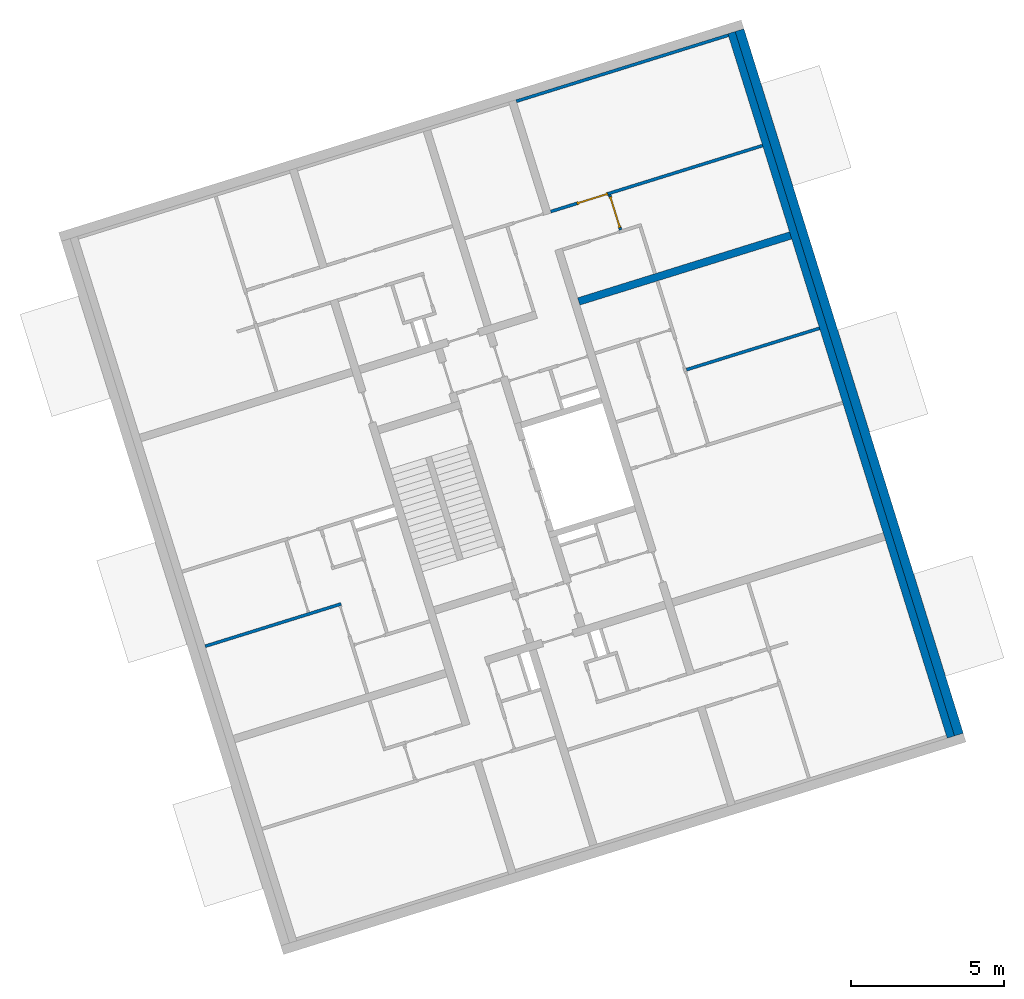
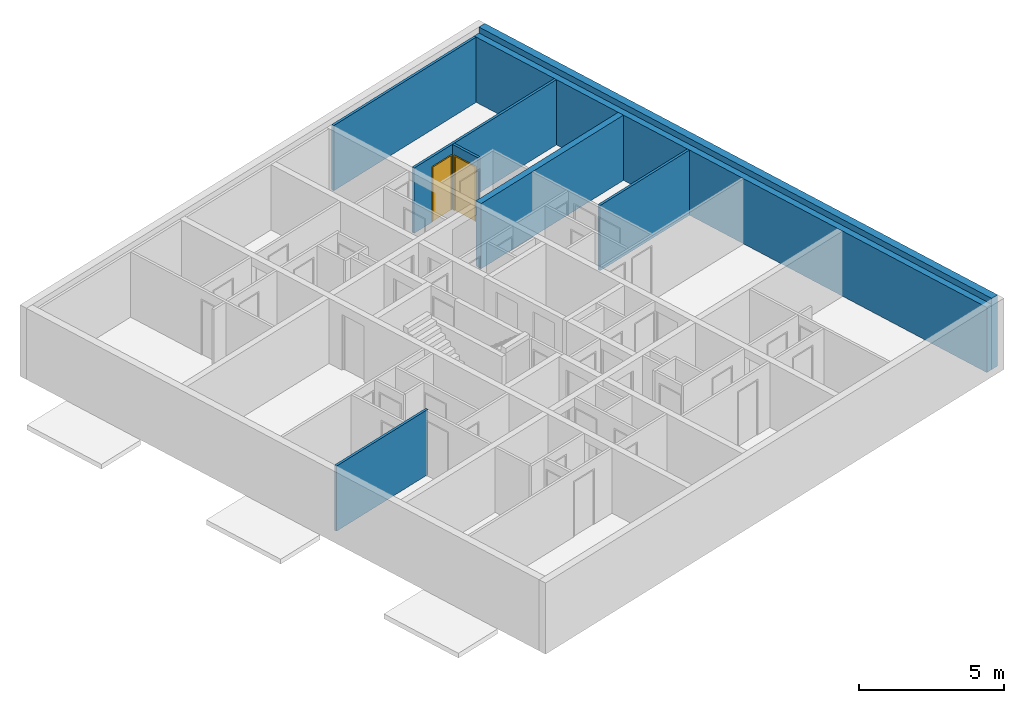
# One storey, part 7 of 9: 8 walls, 2 doors, 6 openings.
"""IFC4 building model written with IfcOpenShell, lengths in metres."""

from ifc_helpers import new_model, entity, si_unit, converted_unit, direction, frame, origin, place, context, subcontext, project, spatial, indexed_curve, outline, extrude, polygons, source, transform, mapped, material, constituent, constituent_set, type_object, type_shapes, element, fill, save


model = new_model("IFC4")

# Units and contexts
model_context = context("Model", 3, precision=1e-05, world=origin(), true_north=direction((6.12323399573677e-17, 1.0)))
body_context = subcontext(model_context, "Body", "Model", "MODEL_VIEW")
ifc_project = project(units=[si_unit("LENGTHUNIT", "METRE"), si_unit("AREAUNIT", "SQUARE_METRE"), converted_unit("PLANEANGLEUNIT", "DEGREE", entity("IfcPlaneAngleMeasure", 0.0174532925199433), si_unit("PLANEANGLEUNIT", "RADIAN"), dimensions=[0, 0, 0, 0, 0, 0, 0]), si_unit("VOLUMEUNIT", "CUBIC_METRE")], contexts=[model_context])

# Site, building, storey
site_placement = place(None, frame((13.1347999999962, 11.9886000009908, 0.0), z_axis=(0.0, 0.0, 1.0), x_axis=(0.954770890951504, 0.297342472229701, 0.0)))
site = spatial("IfcSite", under=ifc_project, at=site_placement, Name="Schiehaven", CompositionType="ELEMENT")
building_placement = place(site_placement, origin())
building = spatial("IfcBuilding", under=site, at=building_placement, Name="VORM huis", CompositionType="ELEMENT")
storey_placement = place(building_placement, frame((0.0, 0.0, 18.9)))
storey = spatial("IfcBuildingStorey", under=building, at=storey_placement, Name="06 zesde verdieping", CompositionType="ELEMENT", Elevation=18.9)

# Walls
ifc_material_1 = material(Name="beton_gewapend_ihw", Category="Miscellaneous")
wall_type_1 = type_object("IfcWallType", Name="Basic Wall:28_WA_skelet_wand 250mm_gen", PredefinedType="STANDARD")
wall_1_placement = place(storey_placement, frame((80.0, 5.0, 0.0), z_axis=(0.0, 0.0, 1.0), x_axis=(0.0, 1.0, 0.0)))
element("IfcWall", 1, at=wall_1_placement, inside=storey, type_object=wall_type_1, material=ifc_material_1, Name="Constructieve wand", ObjectType="Wand", PredefinedType="NOTDEFINED", context=body_context, shape_type="SweptSolid", body=[
    extrude(outline(indexed_curve([(24.1, 0.125), (2.12737606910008e-16, 0.125000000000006), (-2.12737606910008e-16, -0.125000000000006), (24.1, -0.125000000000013), (24.1, 0.125)], self_intersect=False)), origin(), (0.0, 0.0, 1.0), 2.75),
])
ifc_material_2 = material(Name="ntb_ntb_ntb", Category="Miscellaneous")
wall_type_2 = type_object("IfcWallType", Name="Basic Wall:21_WA_gevel_binnenspouwwand 100mm_gen", PredefinedType="STANDARD")
wall_2_placement = place(storey_placement, frame((79.8750000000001, 29.0499999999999, 0.0), z_axis=(0.0, 0.0, 1.0), x_axis=(-1.0, 0.0, 0.0)))
element("IfcWall", 2, at=wall_2_placement, inside=storey, type_object=wall_type_2, material=ifc_material_2, Name="Binnenspouwblad", ObjectType="Wand", PredefinedType="NOTDEFINED", context=body_context, shape_type="SweptSolid", body=[
    extrude(outline(indexed_curve([(7.24999999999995, 0.0499999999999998), (-1.70916305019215e-17, 0.0500000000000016), (1.70916305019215e-17, -0.0500000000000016), (7.24999999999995, -0.0500000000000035), (7.24999999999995, 0.0499999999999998)], self_intersect=False)), origin(), (0.0, 0.0, 1.0), 2.75),
])
wall_type_3 = type_object("IfcWallType", Name="Basic Wall: 300mm_gen", PredefinedType="STANDARD")
wall_3_placement = place(storey_placement, frame((80.275, 5.0, 0.0), z_axis=(0.0, 0.0, 1.0), x_axis=(0.0, 1.0, 0.0)))
element("IfcWall", 3, at=wall_3_placement, inside=storey, type_object=wall_type_3, material=ifc_material_2, Name="Gevelwand", ObjectType="Wand", PredefinedType="NOTDEFINED", context=body_context, shape_type="SweptSolid", body=[
    extrude(outline(indexed_curve([(24.1, 0.150000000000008), (-3.80640300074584e-16, 0.150000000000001), (-7.02226829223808e-16, -0.150000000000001), (24.1, -0.149999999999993), (24.1, 0.150000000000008)], self_intersect=False)), origin(), (0.0, 0.0, 1.0), 3.0),
])
wall_type_4 = type_object("IfcWallType", Name="Basic Wall:22_WA_afbouw_binnenwand 250mm_gen", PredefinedType="STANDARD")
wall_4_placement = place(storey_placement, frame((72.6250000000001, 22.1999999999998, 0.0)))
element("IfcWall", 4, at=wall_4_placement, inside=storey, type_object=wall_type_4, material=ifc_material_2, Name="Binnenwand", ObjectType="Wand", PredefinedType="NOTDEFINED", context=body_context, shape_type="SweptSolid", body=[
    extrude(outline(indexed_curve([(7.24999999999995, 0.125000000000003), (4.81048401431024e-17, 0.125000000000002), (-4.81048401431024e-17, -0.125000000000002), (7.24999999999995, -0.125), (7.24999999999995, 0.125000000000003)], self_intersect=False)), origin(), (0.0, 0.0, 1.0), 2.75),
])

# Wall, openings
wall_type_5 = type_object("IfcWallType", Name="Basic Wall:22_WA_afbouw_binnenwand 100mm_gen", PredefinedType="STANDARD")
wall_5_placement = place(storey_placement, frame((62.275, 15.0749999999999, 0.0), z_axis=(0.0, 0.0, 1.0), x_axis=(-1.0, 0.0, 0.0)))
wall_5 = element("IfcWall", 5, at=wall_5_placement, inside=storey, type_object=wall_type_5, material=ifc_material_2, Name="Binnenwand", ObjectType="Wand", PredefinedType="NOTDEFINED", context=body_context, shape_type="Tessellation", body=[
    polygons([(-2.2517677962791e-15, -0.0499999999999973, 2.16573425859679e-15), (4.65000000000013, -0.0500000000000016, 2.16573425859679e-15), (4.65000000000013, -0.0500000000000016, 2.75), (1.15, -0.0500000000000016, 2.75), (1.04999999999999, -0.0500000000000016, 2.75), (-2.2517677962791e-15, -0.0499999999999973, 2.75), (-2.17960445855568e-15, 0.0499999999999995, 2.16573425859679e-15), (-2.17960445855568e-15, 0.0499999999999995, 2.34999999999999), (-2.17960445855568e-15, 0.0499999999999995, 2.75), (0.100000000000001, 0.0499999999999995, 2.75), (4.65000000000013, 0.0499999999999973, 2.75), (4.65000000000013, 0.0499999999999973, 2.16573425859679e-15)], [[[1, 2, 3, 4, 5, 6]], [[7, 8, 9, 10, 11, 12]], [[2, 1, 7, 12]], [[3, 2, 12, 11]], [[6, 5, 4, 3, 11, 10, 9]], [[1, 6, 9, 8, 7]]], closed=True),
])
opening_1_placement = place(wall_5_placement, origin())
element("IfcOpeningElement", 6, at=opening_1_placement, cuts=wall_5, Name="Binnendeur", PredefinedType="OPENING", context=body_context, shape_type="SweptSolid", body=[
    extrude(outline(indexed_curve([(-0.0499999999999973, -1.17499999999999), (0.050000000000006, -1.17499999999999), (0.050000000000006, 1.17499999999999), (-0.0499999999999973, 1.17499999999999), (-0.0499999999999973, -1.17499999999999)], self_intersect=False)), frame((0.0500000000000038, 0.0500000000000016, 1.17499999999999), z_axis=(0.0, 1.0, 0.0), x_axis=(-1.0, 0.0, 0.0)), (0.0, 0.0, 1.0), 1.05),
])
opening_2_placement = place(wall_5_placement, origin())
element("IfcOpeningElement", 7, at=opening_2_placement, cuts=wall_5, Name="Binnendeur", PredefinedType="OPENING", context=body_context, shape_type="SweptSolid", body=[
    extrude(outline(indexed_curve([(-0.050000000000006, -1.17499999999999), (0.0499999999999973, -1.17499999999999), (0.0499999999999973, 1.17499999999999), (-0.050000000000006, 1.17499999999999), (-0.050000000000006, -1.17499999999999)], self_intersect=False)), frame((1.09999999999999, -1.1, 1.17499999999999), z_axis=(0.0, 1.0, 0.0), x_axis=(-1.0, 0.0, 0.0)), (0.0, 0.0, 1.0), 1.05),
])

# Wall, opening, door
wall_6_placement = place(storey_placement, frame((79.8749999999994, 25.2750000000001, 0.0), z_axis=(0.0, 0.0, 1.0), x_axis=(-1.0, 0.0, 0.0)))
wall_6 = element("IfcWall", 8, at=wall_6_placement, inside=storey, type_object=wall_type_5, material=ifc_material_2, Name="Binnenwand", ObjectType="Wand", PredefinedType="NOTDEFINED", context=body_context, shape_type="Tessellation", body=[
    polygons([(6.35000000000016, -0.0499999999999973, 2.34999999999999), (6.35000000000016, -0.0499999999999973, 2.16573425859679e-15), (7.25000000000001, -0.0499999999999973, 2.16573425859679e-15), (7.25000000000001, -0.0499999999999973, 2.75), (-3.45114969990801e-15, -0.0499999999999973, 2.75), (-3.45114969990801e-15, -0.0499999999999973, 2.16573425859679e-15), (5.30000000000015, -0.049999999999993, 2.16573425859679e-15), (5.30000000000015, -0.049999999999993, 2.34999999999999), (7.25000000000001, 0.0500000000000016, 2.16573425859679e-15), (6.35000000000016, 0.0500000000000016, 2.16573425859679e-15), (6.35000000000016, 0.0500000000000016, 2.34999999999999), (5.30000000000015, 0.050000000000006, 2.34999999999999), (5.30000000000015, 0.050000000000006, 2.16573425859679e-15), (5.20000000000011, 0.050000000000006, 2.16573425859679e-15), (-3.57435048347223e-15, 0.0500000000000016, 2.16573425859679e-15), (-3.57435048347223e-15, 0.0500000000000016, 2.75), (5.20000000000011, 0.050000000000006, 2.75), (5.30000000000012, 0.050000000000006, 2.75), (7.25000000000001, 0.0500000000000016, 2.75)], [[[1, 2, 3, 4, 5, 6, 7, 8]], [[9, 10, 11, 12, 13, 14, 15, 16, 17, 18, 19]], [[7, 6, 15, 14, 13]], [[4, 3, 9, 19]], [[5, 4, 19, 18, 17, 16]], [[6, 5, 16, 15]], [[13, 12, 8, 7]], [[11, 10, 2, 1]], [[12, 11, 1, 8]], [[3, 2, 10, 9]]], closed=True),
])
opening_3_placement = place(wall_6_placement, frame((5.30000000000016, -0.0500000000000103, 0.0)))
opening_3 = element("IfcOpeningElement", 9, at=opening_3_placement, cuts=wall_6, Name="Binnendeur", PredefinedType="OPENING", context=body_context, shape_type="SweptSolid", body=[
    extrude(outline(indexed_curve([(2.34999999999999, 0.0), (2.34999999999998, 1.05), (0.0, 1.05), (2.16573425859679e-15, 0.0), (2.34999999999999, 0.0)], self_intersect=False)), frame((0.0, 0.0, 0.0), z_axis=(0.0, 1.0, 0.0), x_axis=(0.0, 0.0, 1.0)), (0.0, 0.0, 1.0), 0.1),
])
ifc_material_3 = material(Name="PD_a_binnenwandopeningen", Category="Miscellaneous")
ifc_constituent_1 = constituent(ifc_material_3, Name="PD_a_binnenwandopeningen", Category="Miscellaneous")
ifc_material_4 = material(Name="metaal_aluminium_ntb", Category="Miscellaneous")
ifc_constituent_2 = constituent(ifc_material_4, Name="metaal_aluminium_ntb", Category="Miscellaneous")
ifc_constituent_set_1 = constituent_set(constituents=[ifc_constituent_1, ifc_constituent_2])
ifc_constituent_3 = constituent(ifc_material_3, Name="PD_a_binnenwandopeningen", Category="Miscellaneous")
ifc_constituent_4 = constituent(ifc_material_4, Name="Panel", Category="Miscellaneous")
ifc_constituent_set_2 = constituent_set(constituents=[ifc_constituent_3, ifc_constituent_4])
door_type_1 = type_object("IfcDoorType", Name="32_DO_binnendeur enkel:binnendeur", OperationType="REVOLVING", PredefinedType="DOOR", material=ifc_constituent_set_2)
shared_shape_1 = source(origin(), body_context, "Body", "SweptSolid", [
    extrude(outline(indexed_curve([(0.475, -1.16249999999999), (0.525, -1.16249999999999), (0.525, 1.18749999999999), (-0.525, 1.18749999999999), (-0.525, -1.16249999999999), (-0.475, -1.16249999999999), (-0.475, 1.13749999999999), (0.475, 1.13749999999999), (0.475, -1.16249999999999)], self_intersect=False)), frame((0.525000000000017, 0.100000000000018, 1.16249999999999), z_axis=(0.0, -1.0, 0.0), x_axis=(1.0, 0.0, 0.0)), (0.0, 0.0, 1.0), 0.1),
    extrude(outline(indexed_curve([(-0.475, -0.025), (0.475, -0.025), (0.475, 0.025), (-0.475, 0.025), (-0.475, -0.025)], self_intersect=False)), frame((0.525000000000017, 0.0499999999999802, 0.0)), (0.0, 0.0, 1.0), 2.29999999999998),
])
type_shapes(door_type_1, [shared_shape_1])
door_1_placement = place(opening_3_placement, origin())
door_1 = element("IfcDoor", 10, at=door_1_placement, inside=storey, type_object=door_type_1, material=ifc_constituent_set_1, Name="Binnendeur", ObjectType="Deur", OperationType="REVOLVING", OverallHeight=2.34999999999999, OverallWidth=1.05, PredefinedType="DOOR", context=body_context, shape_type="MappedRepresentation", body=[
    mapped(shared_shape_1, transform((0.0, 0.0, 0.0), scale=1.0)),
])
fill(opening_3, door_1)

# Wall, openings, door
wall_7_placement = place(storey_placement, frame((74.6249999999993, 24.0250000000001, 0.0), z_axis=(0.0, 0.0, 1.0), x_axis=(0.0, 1.0, 0.0)))
wall_7 = element("IfcWall", 11, at=wall_7_placement, inside=storey, type_object=wall_type_5, material=ifc_material_2, Name="Binnenwand", ObjectType="Wand", PredefinedType="NOTDEFINED", context=body_context, shape_type="Tessellation", body=[
    polygons([(1.2, -0.0500000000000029, 2.75), (4.33146851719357e-15, -0.0500000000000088, 2.75), (4.33146851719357e-15, -0.0500000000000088, 2.16573425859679e-15), (0.0799999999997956, -0.0500000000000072, 2.16573425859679e-15), (0.0799999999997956, -0.0500000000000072, 2.34999999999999), (1.1299999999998, -0.0500000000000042, 2.34999999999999), (1.1299999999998, -0.0500000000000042, 2.16573425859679e-15), (1.2, -0.0500000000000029, 2.16573425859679e-15), (0.0, 0.0499999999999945, 2.75), (1.19999999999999, 0.0499999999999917, 2.75), (1.19999999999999, 0.0500000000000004, 2.34999999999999), (1.19999999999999, 0.0499999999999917, 2.16573425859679e-15), (1.1299999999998, 0.0499999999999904, 2.16573425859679e-15), (1.1299999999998, 0.0500000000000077, 2.34999999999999), (0.0799999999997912, 0.049999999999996, 2.34999999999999), (0.0799999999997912, 0.049999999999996, 2.16573425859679e-15), (0.0, 0.0499999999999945, 2.16573425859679e-15), (0.0, 0.0499999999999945, 2.34999999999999)], [[[1, 2, 3, 4, 5, 6, 7, 8]], [[9, 10, 11, 12, 13, 14, 15, 16, 17, 18]], [[3, 17, 16, 4]], [[2, 1, 10, 9]], [[1, 8, 12, 11, 10]], [[3, 2, 9, 18, 17]], [[6, 14, 13, 7]], [[14, 6, 5, 15]], [[15, 5, 4, 16]], [[12, 8, 7, 13]]], closed=True),
])
opening_4_placement = place(wall_7_placement, frame((0.0799999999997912, -0.050000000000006, 0.0)))
opening_4 = element("IfcOpeningElement", 12, at=opening_4_placement, cuts=wall_7, Name="Binnendeur", PredefinedType="OPENING", context=body_context, shape_type="SweptSolid", body=[
    extrude(outline(indexed_curve([(2.34999999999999, 1.05), (0.0, 1.05), (0.0, 0.0), (2.34999999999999, 0.0), (2.34999999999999, 1.05)], self_intersect=False)), frame((0.0, 0.0, 0.0), z_axis=(0.0, 1.0, 0.0), x_axis=(0.0, 0.0, 1.0)), (0.0, 0.0, 1.0), 0.1),
])
opening_5_placement = place(wall_7_placement, frame((-24.0250000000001, 74.6249999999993, 0.0), z_axis=(0.0, 0.0, 1.0), x_axis=(0.0, -1.0, 0.0)))
element("IfcOpeningElement", 13, at=opening_5_placement, cuts=wall_7, Name="Binnendeur", PredefinedType="OPENING", context=body_context, shape_type="SweptSolid", body=[
    extrude(outline(indexed_curve([(-1.17499999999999, -0.524999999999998), (1.17499999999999, -0.525000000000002), (1.17499999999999, 0.525000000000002), (-1.17499999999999, 0.525000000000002), (-1.17499999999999, -0.524999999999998)], self_intersect=False)), frame((76.1989999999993, 24.6299999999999, 1.17499999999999), z_axis=(-1.0, 0.0, 0.0), x_axis=(0.0, 0.0, -1.0)), (0.0, 0.0, 1.0), 3.048),
])
ifc_constituent_5 = constituent(ifc_material_3, Name="PD_a_binnenwandopeningen", Category="Miscellaneous")
ifc_constituent_6 = constituent(ifc_material_4, Name="metaal_aluminium_ntb", Category="Miscellaneous")
ifc_constituent_set_3 = constituent_set(constituents=[ifc_constituent_5, ifc_constituent_6])
ifc_constituent_7 = constituent(ifc_material_3, Name="PD_a_binnenwandopeningen", Category="Miscellaneous")
ifc_constituent_8 = constituent(ifc_material_4, Name="Panel", Category="Miscellaneous")
ifc_constituent_set_4 = constituent_set(constituents=[ifc_constituent_7, ifc_constituent_8])
door_type_2 = type_object("IfcDoorType", Name="32_DO_binnendeur enkel:binnendeur", OperationType="REVOLVING", PredefinedType="DOOR", material=ifc_constituent_set_4)
shared_shape_2 = source(origin(), body_context, "Body", "SweptSolid", [
    extrude(outline(indexed_curve([(-1.16249999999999, -0.525000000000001), (1.18749999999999, -0.525), (1.18749999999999, 0.525), (-1.16249999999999, 0.525), (-1.16249999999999, 0.475), (1.13749999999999, 0.475), (1.13749999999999, -0.475), (-1.16249999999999, -0.475), (-1.16249999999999, -0.525000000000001)], self_intersect=False)), frame((0.525000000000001, 0.0, 1.16249999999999), z_axis=(0.0, 1.0, 0.0), x_axis=(0.0, 0.0, 1.0)), (0.0, 0.0, 1.0), 0.1),
    extrude(outline(indexed_curve([(-0.025, -0.475), (0.025, -0.475), (0.025, 0.475), (-0.025, 0.475), (-0.025, -0.475)], self_intersect=False)), frame((0.525000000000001, 0.0499999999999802, 0.0), z_axis=(0.0, 0.0, 1.0), x_axis=(0.0, 1.0, 0.0)), (0.0, 0.0, 1.0), 2.29999999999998),
])
type_shapes(door_type_2, [shared_shape_2])
door_2_placement = place(opening_4_placement, origin())
door_2 = element("IfcDoor", 14, at=door_2_placement, inside=storey, type_object=door_type_2, material=ifc_constituent_set_3, Name="Binnendeur", ObjectType="Deur", OperationType="REVOLVING", OverallHeight=2.34999999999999, OverallWidth=1.05, PredefinedType="DOOR", context=body_context, shape_type="MappedRepresentation", body=[
    mapped(shared_shape_2, transform((0.0, 0.0, 0.0), scale=1.0)),
])
fill(opening_4, door_2)

# Wall, opening
wall_8_placement = place(storey_placement, frame((75.3249999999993, 19.0249999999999, 0.0)))
wall_8 = element("IfcWall", 15, at=wall_8_placement, inside=storey, type_object=wall_type_5, material=ifc_material_2, Name="Binnenwand", ObjectType="Wand", PredefinedType="NOTDEFINED", context=body_context, shape_type="Tessellation", body=[
    polygons([(6.24269688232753e-15, -0.0500000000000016, 2.16573425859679e-15), (4.55000000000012, -0.0500000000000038, 2.16573425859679e-15), (4.55000000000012, -0.0500000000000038, 2.75), (6.24269688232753e-15, -0.0500000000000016, 2.75), (-2.42024015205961e-15, -0.0500000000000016, 2.34999999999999), (6.59517781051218e-15, 0.0499999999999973, 2.16573425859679e-15), (-2.06775922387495e-15, 0.0499999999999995, 2.34999999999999), (6.59517781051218e-15, 0.0499999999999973, 2.75), (4.55000000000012, 0.0499999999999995, 2.75), (4.55000000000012, 0.0499999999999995, 2.16573425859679e-15)], [[[1, 2, 3, 4, 5]], [[6, 7, 8, 9, 10]], [[2, 1, 6, 10]], [[3, 2, 10, 9]], [[4, 3, 9, 8]], [[1, 5, 4, 8, 7, 6]]], closed=True),
])
opening_6_placement = place(wall_8_placement, origin())
element("IfcOpeningElement", 16, at=opening_6_placement, cuts=wall_8, Name="Binnendeur", PredefinedType="OPENING", context=body_context, shape_type="SweptSolid", body=[
    extrude(outline(indexed_curve([(-0.050000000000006, -1.17499999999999), (0.0499999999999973, -1.17499999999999), (0.0499999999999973, 1.17499999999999), (-0.050000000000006, 1.17499999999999), (-0.050000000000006, -1.17499999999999)], self_intersect=False)), frame((-0.050000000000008, 0.0500000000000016, 1.17499999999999), z_axis=(0.0, 1.0, 0.0), x_axis=(-1.0, 0.0, 0.0)), (0.0, 0.0, 1.0), 1.05),
])

save(model, "model.ifc")
